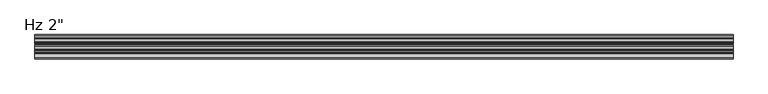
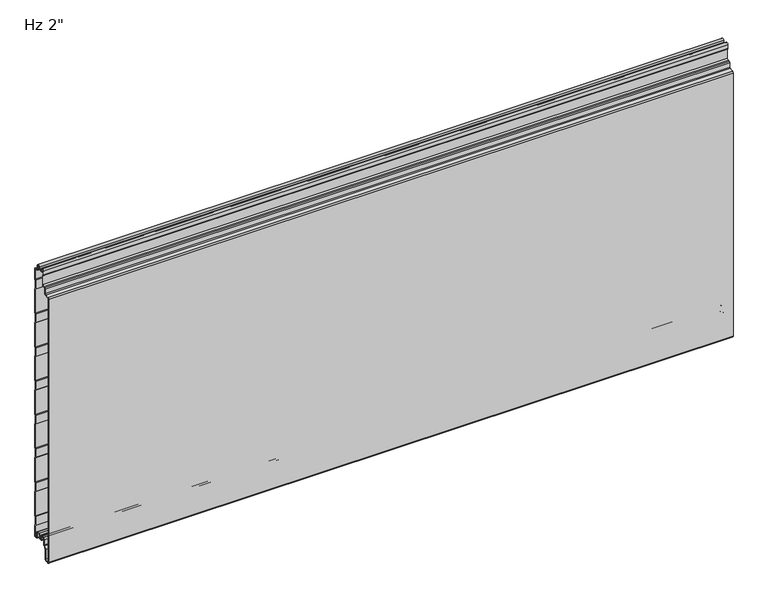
"""IFC4 building model written with IfcOpenShell, lengths in millimetres: plate geometry."""

from ifc_helpers import new_model, si_unit, point, frame, frame_2d, origin, place, context, project, spatial, polyline, circle_curve, trimmed, segment, composite_curve, outline, extrude, source, transform, mapped, element, save
from ifc_brep_helpers import plane_surface, cylinder_surface, revolved_surface, advanced_brep


def plate_0195604f(model_context):
    return source(origin(), model_context, "Body", "SolidModel", [
        advanced_brep(
        [(-730.0, -17.0015159, 2.0313088), (-730.0, -18.0015191, 1.0313116), (-730.0, -19.0015104, 2.0313088), (-730.0, -19.0015105, 6.0315125), (-730.0, -18.0015159, 6.0315125), (-730.0, -18.0015159, 8.7237223), (-730.0, -14.7015202, 12.023718), (-730.0, -10.301529, 12.023718), (-730.0, -7.0015335, 8.7237225), (-730.0, -7.0015335, -1.6962564), (-730.0, -5.2315393, -3.4662506), (-730.0, -0.9999916, -3.4662506), (-730.0, -0.9999916, 21.034026), (-730.0, -2.2002307, 22.4196686), (-730.0, -2.2002307, 41.7948349), (-730.0, -1.0, 43.1804679), (-730.0, -1.0, 97.2338833), (-730.0, -2.2002307, 98.6195162), (-730.0, -2.2002307, 117.9946825), (-730.0, -1.0, 119.3803155), (-730.0, -1.0, 173.4337309), (-730.0, -2.2002307, 174.8193638), (-730.0, -2.2002307, 194.1945301), (-730.0, -1.0, 195.5801631), (-730.0, -1.0, 249.6335785), (-730.0, -2.2002307, 251.0192114), (-730.0, -2.2002307, 270.3943777), (-730.0, -1.0, 271.7800107), (-730.0, -1.0, 325.8334261), (-730.0, -2.2002307, 327.219059), (-730.0, -2.2002307, 346.5942253), (-730.0, -1.0, 347.9798583), (-730.0, -1.0, 402.0332737), (-730.0, -2.2002307, 403.4189066), (-730.0, -2.2002307, 422.7940729), (-730.0, -1.0, 424.1797059), (-730.0, -1.0, 478.2331213), (-730.0, -2.2002307, 479.6187542), (-730.0, -2.2002307, 498.9939205), (-730.0, -1.0, 500.3795535), (-730.0, -1.0, 554.4329689), (-730.0, -2.2002307, 555.8186018), (-730.0, -2.2002307, 575.1937681), (-730.0, -1.0, 576.5794011), (-730.0, -1.0, 601.0787013), (-730.0, -6.0026007, 601.0787013), (-730.0, -9.9974365, 604.9016499), (-730.0, -10.4046442, 613.3931719), (-730.0, -14.7059822, 613.3921924), (-730.0, -14.9256429, 609.2513685), (-730.0, -16.6743462, 607.5686884), (-730.0, -19.0015288, 607.5686884), (-730.0, -19.0015288, 608.5686884), (-730.0, -16.6743462, 608.5686884), (-730.0, -15.9247038, 609.2955779), (-730.0, -15.7045782, 613.4451655), (-730.0, -9.405912, 613.4435732), (-730.0, -8.9985844, 604.9495495), (-730.0, -6.0004836, 602.0787013), (-730.0, -1.4015652, 602.0787013), (-730.0, -0.001568, 600.678797), (-730.0, 2.09e-05, 576.7275849), (-730.0, -0.3417885, 575.8119353), (-730.0, -1.2002307, 574.8208877), (-730.0, -1.2002307, 556.1914823), (-730.0, -0.3417885, 555.2004346), (-730.0, 0.0, 554.2838177), (-730.0, 0.0, 500.5287046), (-730.0, -0.3417885, 499.6120877), (-730.0, -1.2002307, 498.6210401), (-730.0, -1.2002307, 479.9916347), (-730.0, -0.3417885, 479.000587), (-730.0, 0.0, 478.0839701), (-730.0, 0.0, 424.328857), (-730.0, -0.3417885, 423.4122401), (-730.0, -1.2002307, 422.4211925), (-730.0, -1.2002307, 403.7917871), (-730.0, -0.3417885, 402.8007394), (-730.0, 0.0, 401.8841225), (-730.0, 0.0, 348.1290094), (-730.0, -0.3417885, 347.2123925), (-730.0, -1.2002307, 346.2213449), (-730.0, -1.2002307, 327.5919395), (-730.0, -0.3417885, 326.6008918), (-730.0, 0.0, 325.6842749), (-730.0, 0.0, 271.9291618), (-730.0, -0.3417885, 271.0125449), (-730.0, -1.2002307, 270.0214973), (-730.0, -1.2002307, 251.3920919), (-730.0, -0.3417885, 250.4010442), (-730.0, 0.0, 249.4844273), (-730.0, 0.0, 195.7293142), (-730.0, -0.3417885, 194.8126973), (-730.0, -1.2002307, 193.8216497), (-730.0, -1.2002307, 175.1922443), (-730.0, -0.3417885, 174.2011966), (-730.0, 0.0, 173.2845797), (-730.0, 0.0, 119.5294666), (-730.0, -0.3417885, 118.6128497), (-730.0, -1.2002307, 117.6218021), (-730.0, -1.2002307, 98.9923967), (-730.0, -0.3417885, 98.001349), (-730.0, 0.0, 97.0847321), (-730.0, 0.0, 43.329619), (-730.0, -0.3417885, 42.4130021), (-730.0, -1.2002307, 41.4219545), (-730.0, -1.2002307, 22.7925491), (-730.0, -0.3417885, 21.8015014), (-730.0, 0.0, 20.8847931), (-730.0, 8.4e-06, -3.0662545), (-730.0, -1.3999878, -4.4662506), (-730.0, -5.2315393, -4.4662506), (-730.0, -8.0015335, -1.6962564), (-730.0, -8.0015335, 8.7237225), (-730.0, -10.301529, 11.023718), (-730.0, -14.7015202, 11.023718), (-730.0, -17.0015159, 8.7237223), (730.0, -17.0015159, 2.0313088), (730.0, -17.0015159, 8.7237223), (730.0, -14.7015202, 11.023718), (730.0, -10.301529, 11.023718), (730.0, -8.0015335, 8.7237225), (730.0, -8.0015335, -1.6962564), (730.0, -5.2315393, -4.4662506), (730.0, -1.3999878, -4.4662506), (730.0, 8.4e-06, -3.0662545), (730.0, 8.4e-06, 20.8848845), (730.0, -0.3417885, 21.8015014), (730.0, -1.2002307, 22.7925491), (730.0, -1.2002307, 41.4219545), (730.0, -0.3417885, 42.4130021), (730.0, 0.0, 43.329619), (730.0, 0.0, 97.0847321), (730.0, -0.3417885, 98.001349), (730.0, -1.2002307, 98.9923967), (730.0, -1.2002307, 117.6218021), (730.0, -0.3417885, 118.6128497), (730.0, 0.0, 119.5294666), (730.0, 0.0, 173.2845797), (730.0, -0.3417885, 174.2011966), (730.0, -1.2002307, 175.1922443), (730.0, -1.2002307, 193.8216497), (730.0, -0.3417885, 194.8126973), (730.0, 0.0, 195.7293142), (730.0, 0.0, 249.4844273), (730.0, -0.3417885, 250.4010442), (730.0, -1.2002307, 251.3920919), (730.0, -1.2002307, 270.0214973), (730.0, -0.3417885, 271.0125449), (730.0, 0.0, 271.9291618), (730.0, 0.0, 325.6842749), (730.0, -0.3417885, 326.6008918), (730.0, -1.2002307, 327.5919395), (730.0, -1.2002307, 346.2213449), (730.0, -0.3417885, 347.2123925), (730.0, 0.0, 348.1290094), (730.0, 0.0, 401.8841225), (730.0, -0.3417885, 402.8007394), (730.0, -1.2002307, 403.7917871), (730.0, -1.2002307, 422.4211925), (730.0, -0.3417885, 423.4122401), (730.0, 0.0, 424.328857), (730.0, 0.0, 478.0839701), (730.0, -0.3417885, 479.000587), (730.0, -1.2002307, 479.9916347), (730.0, -1.2002307, 498.6210401), (730.0, -0.3417885, 499.6120877), (730.0, 0.0, 500.5287046), (730.0, 0.0, 554.2838177), (730.0, -0.3417885, 555.2004346), (730.0, -1.2002307, 556.1914823), (730.0, -1.2002307, 574.8208877), (730.0, -0.3417885, 575.8119353), (730.0, 0.0, 576.7285522), (730.0, 2.09e-05, 600.678797), (730.0, -1.4015652, 602.0787013), (730.0, -6.0004836, 602.0787013), (730.0, -8.9985844, 604.9495495), (730.0, -9.405912, 613.4435732), (730.0, -15.7045782, 613.4451655), (730.0, -15.9247038, 609.2955779), (730.0, -16.6743462, 608.5686884), (730.0, -19.0015288, 608.5686884), (730.0, -19.0015288, 607.5686884), (730.0, -16.6743462, 607.5686884), (730.0, -14.9256429, 609.2513685), (730.0, -14.7059822, 613.3921924), (730.0, -10.4046442, 613.3931719), (730.0, -9.9974365, 604.9016499), (730.0, -6.0026007, 601.0787013), (730.0, -1.0, 601.0787013), (730.0, -1.0, 576.5794011), (730.0, -2.2002307, 575.1937681), (730.0, -2.2002307, 555.8186018), (730.0, -1.0, 554.4329689), (730.0, -1.0, 500.3795535), (730.0, -2.2002307, 498.9939205), (730.0, -2.2002307, 479.6187542), (730.0, -1.0, 478.2331213), (730.0, -1.0, 424.1797059), (730.0, -2.2002307, 422.7940729), (730.0, -2.2002307, 403.4189066), (730.0, -1.0, 402.0332737), (730.0, -1.0, 347.9798583), (730.0, -2.2002307, 346.5942253), (730.0, -2.2002307, 327.219059), (730.0, -1.0, 325.8334261), (730.0, -1.0, 271.7800107), (730.0, -2.2002307, 270.3943777), (730.0, -2.2002307, 251.0192114), (730.0, -1.0, 249.6335785), (730.0, -1.0, 195.5801631), (730.0, -2.2002307, 194.1945301), (730.0, -2.2002307, 174.8193638), (730.0, -1.0, 173.4337309), (730.0, -1.0, 119.3803155), (730.0, -2.2002307, 117.9946825), (730.0, -2.2002307, 98.6195162), (730.0, -1.0, 97.2338833), (730.0, -1.0, 43.1804679), (730.0, -2.2002307, 41.7948349), (730.0, -2.2002307, 22.4196686), (730.0, -0.9999916, 21.034026), (730.0, -0.9999916, -3.4662506), (730.0, -5.2315393, -3.4662506), (730.0, -7.0015335, -1.6962564), (730.0, -7.0015335, 8.7237225), (730.0, -10.301529, 12.023718), (730.0, -14.7015202, 12.023718), (730.0, -18.0015159, 8.7237223), (730.0, -18.0015159, 6.0315125), (730.0, -19.0015105, 6.0315125), (730.0, -19.0015105, 2.0313088), (730.0, -18.0015191, 1.0313116)],
        [
            (0, 1, circle_curve(frame((-730.0, -18.0015132, 2.0313088), z_axis=(-1.0, 0.0, 0.0), x_axis=(0.0, 0.0, 1.0)), 0.9999973)),
            (1, 2, circle_curve(frame((-730.0, -18.0015132, 2.0313088), z_axis=(-1.0, 0.0, 0.0), x_axis=(0.0, 0.0, 1.0)), 0.9999972)),
            (2, 3),
            (3, 4),
            (4, 5),
            (5, 6, circle_curve(frame((-730.0, -14.7015202, 8.7237223), z_axis=(-1.0, 0.0, 0.0), x_axis=(0.0, 0.0, 1.0)), 3.2999957)),
            (6, 7),
            (7, 8, circle_curve(frame((-730.0, -10.301529, 8.7237225), z_axis=(-1.0, 0.0, 0.0), x_axis=(0.0, 0.0, 1.0)), 3.2999955)),
            (8, 9),
            (9, 10, circle_curve(frame((-730.0, -5.2315393, -1.6962564), z_axis=(1.0, 0.0, 0.0), x_axis=(0.0, 0.0, 1.0)), 1.7699942)),
            (10, 11),
            (11, 12),
            (12, 13),
            (13, 14),
            (14, 15),
            (15, 16),
            (16, 17),
            (17, 18),
            (18, 19),
            (19, 20),
            (20, 21),
            (21, 22),
            (22, 23),
            (23, 24),
            (24, 25),
            (25, 26),
            (26, 27),
            (27, 28),
            (28, 29),
            (29, 30),
            (30, 31),
            (31, 32),
            (32, 33),
            (33, 34),
            (34, 35),
            (35, 36),
            (36, 37),
            (37, 38),
            (38, 39),
            (39, 40),
            (40, 41),
            (41, 42),
            (42, 43),
            (43, 44),
            (44, 45),
            (45, 46, circle_curve(frame((-730.0, -5.9867338, 605.0939817), z_axis=(-1.0, 0.0, 0.0), x_axis=(0.0, 0.0, 1.0)), 4.0153117)),
            (46, 47),
            (47, 48, circle_curve(frame((-730.0, -12.5552871, 613.2781032), z_axis=(1.0, 0.0, 0.0), x_axis=(0.0, 0.0, 1.0)), 2.153719)),
            (48, 49),
            (49, 50, circle_curve(frame((-730.0, -16.6743462, 609.3186869), z_axis=(-1.0, 0.0, 0.0), x_axis=(0.0, 0.0, 1.0)), 1.7499985)),
            (50, 51),
            (51, 52),
            (52, 53),
            (53, 54, circle_curve(frame((-730.0, -16.6743462, 609.3186869), z_axis=(1.0, 0.0, 0.0), x_axis=(0.0, 0.0, 1.0)), 0.7499985)),
            (54, 55),
            (55, 56, circle_curve(frame((-730.0, -12.5552871, 613.2781032), z_axis=(-1.0, 0.0, 0.0), x_axis=(0.0, 0.0, 1.0)), 3.153719)),
            (56, 57),
            (57, 58, circle_curve(frame((-730.0, -5.9867338, 605.0939817), z_axis=(1.0, 0.0, 0.0), x_axis=(0.0, 0.0, 1.0)), 3.0153117)),
            (58, 59),
            (59, 60, circle_curve(frame((-730.0, -1.4015652, 600.6787041), z_axis=(-1.0, 0.0, 0.0), x_axis=(0.0, 0.0, 1.0)), 1.3999972)),
            (60, 61),
            (61, 62, circle_curve(frame((-730.0, -1.3999972, 576.7285522), z_axis=(-1.0, 0.0, 0.0), x_axis=(0.0, 0.0, 1.0)), 1.3999972)),
            (62, 63),
            (63, 64),
            (64, 65),
            (65, 66, circle_curve(frame((-730.0, -1.3999972, 554.2838177), z_axis=(-1.0, 0.0, 0.0), x_axis=(0.0, 0.0, 1.0)), 1.3999972)),
            (66, 67),
            (67, 68, circle_curve(frame((-730.0, -1.3999972, 500.5287046), z_axis=(-1.0, 0.0, 0.0), x_axis=(0.0, 0.0, 1.0)), 1.3999972)),
            (68, 69),
            (69, 70),
            (70, 71),
            (71, 72, circle_curve(frame((-730.0, -1.3999972, 478.0839701), z_axis=(-1.0, 0.0, 0.0), x_axis=(0.0, 0.0, 1.0)), 1.3999972)),
            (72, 73),
            (73, 74, circle_curve(frame((-730.0, -1.3999972, 424.328857), z_axis=(-1.0, 0.0, 0.0), x_axis=(0.0, 0.0, 1.0)), 1.3999972)),
            (74, 75),
            (75, 76),
            (76, 77),
            (77, 78, circle_curve(frame((-730.0, -1.3999972, 401.8841225), z_axis=(-1.0, 0.0, 0.0), x_axis=(0.0, 0.0, 1.0)), 1.3999972)),
            (78, 79),
            (79, 80, circle_curve(frame((-730.0, -1.3999972, 348.1290094), z_axis=(-1.0, 0.0, 0.0), x_axis=(0.0, 0.0, 1.0)), 1.3999972)),
            (80, 81),
            (81, 82),
            (82, 83),
            (83, 84, circle_curve(frame((-730.0, -1.3999972, 325.6842749), z_axis=(-1.0, 0.0, 0.0), x_axis=(0.0, 0.0, 1.0)), 1.3999972)),
            (84, 85),
            (85, 86, circle_curve(frame((-730.0, -1.3999972, 271.9291618), z_axis=(-1.0, 0.0, 0.0), x_axis=(0.0, 0.0, 1.0)), 1.3999972)),
            (86, 87),
            (87, 88),
            (88, 89),
            (89, 90, circle_curve(frame((-730.0, -1.3999972, 249.4844273), z_axis=(-1.0, 0.0, 0.0), x_axis=(0.0, 0.0, 1.0)), 1.3999972)),
            (90, 91),
            (91, 92, circle_curve(frame((-730.0, -1.3999972, 195.7293142), z_axis=(-1.0, 0.0, 0.0), x_axis=(0.0, 0.0, 1.0)), 1.3999972)),
            (92, 93),
            (93, 94),
            (94, 95),
            (95, 96, circle_curve(frame((-730.0, -1.3999972, 173.2845797), z_axis=(-1.0, 0.0, 0.0), x_axis=(0.0, 0.0, 1.0)), 1.3999972)),
            (96, 97),
            (97, 98, circle_curve(frame((-730.0, -1.3999972, 119.5294666), z_axis=(-1.0, 0.0, 0.0), x_axis=(0.0, 0.0, 1.0)), 1.3999972)),
            (98, 99),
            (99, 100),
            (100, 101),
            (101, 102, circle_curve(frame((-730.0, -1.3999972, 97.0847321), z_axis=(-1.0, 0.0, 0.0), x_axis=(0.0, 0.0, 1.0)), 1.3999972)),
            (102, 103),
            (103, 104, circle_curve(frame((-730.0, -1.3999972, 43.329619), z_axis=(-1.0, 0.0, 0.0), x_axis=(0.0, 0.0, 1.0)), 1.3999972)),
            (104, 105),
            (105, 106),
            (106, 107),
            (107, 108, circle_curve(frame((-730.0, -1.3999972, 20.8848845), z_axis=(-1.0, 0.0, 0.0), x_axis=(0.0, 0.0, 1.0)), 1.3999972)),
            (108, 109),
            (109, 110, circle_curve(frame((-730.0, -1.3999878, -3.0662545), z_axis=(-1.0, 0.0, 0.0), x_axis=(0.0, 0.0, 1.0)), 1.3999962)),
            (110, 111),
            (111, 112, circle_curve(frame((-730.0, -5.2315393, -1.6962564), z_axis=(-1.0, 0.0, 0.0), x_axis=(0.0, 0.0, 1.0)), 2.7699942)),
            (112, 113),
            (113, 114, circle_curve(frame((-730.0, -10.301529, 8.7237225), z_axis=(1.0, 0.0, 0.0), x_axis=(0.0, 0.0, 1.0)), 2.2999955)),
            (114, 115),
            (115, 116, circle_curve(frame((-730.0, -14.7015202, 8.7237223), z_axis=(1.0, 0.0, 0.0), x_axis=(0.0, 0.0, 1.0)), 2.2999957)),
            (116, 0),
            (117, 118),
            (118, 119, circle_curve(frame((730.0, -14.7015202, 8.7237223), z_axis=(-1.0, 0.0, 0.0), x_axis=(0.0, 0.0, 1.0)), 2.2999957)),
            (119, 120),
            (120, 121, circle_curve(frame((730.0, -10.301529, 8.7237225), z_axis=(-1.0, 0.0, 0.0), x_axis=(0.0, 0.0, 1.0)), 2.2999955)),
            (121, 122),
            (122, 123, circle_curve(frame((730.0, -5.2315393, -1.6962564), z_axis=(1.0, 0.0, 0.0), x_axis=(0.0, 0.0, 1.0)), 2.7699942)),
            (123, 124),
            (124, 125, circle_curve(frame((730.0, -1.3999878, -3.0662545), z_axis=(1.0, 0.0, 0.0), x_axis=(0.0, 0.0, 1.0)), 1.3999962)),
            (125, 126),
            (126, 127, circle_curve(frame((730.0, -1.3999972, 20.8848845), z_axis=(1.0, 0.0, 0.0), x_axis=(0.0, 0.0, 1.0)), 1.3999972)),
            (127, 128),
            (128, 129),
            (129, 130),
            (130, 131, circle_curve(frame((730.0, -1.3999972, 43.329619), z_axis=(1.0, 0.0, 0.0), x_axis=(0.0, 0.0, 1.0)), 1.3999972)),
            (131, 132),
            (132, 133, circle_curve(frame((730.0, -1.3999972, 97.0847321), z_axis=(1.0, 0.0, 0.0), x_axis=(0.0, 0.0, 1.0)), 1.3999972)),
            (133, 134),
            (134, 135),
            (135, 136),
            (136, 137, circle_curve(frame((730.0, -1.3999972, 119.5294666), z_axis=(1.0, 0.0, 0.0), x_axis=(0.0, 0.0, 1.0)), 1.3999972)),
            (137, 138),
            (138, 139, circle_curve(frame((730.0, -1.3999972, 173.2845797), z_axis=(1.0, 0.0, 0.0), x_axis=(0.0, 0.0, 1.0)), 1.3999972)),
            (139, 140),
            (140, 141),
            (141, 142),
            (142, 143, circle_curve(frame((730.0, -1.3999972, 195.7293142), z_axis=(1.0, 0.0, 0.0), x_axis=(0.0, 0.0, 1.0)), 1.3999972)),
            (143, 144),
            (144, 145, circle_curve(frame((730.0, -1.3999972, 249.4844273), z_axis=(1.0, 0.0, 0.0), x_axis=(0.0, 0.0, 1.0)), 1.3999972)),
            (145, 146),
            (146, 147),
            (147, 148),
            (148, 149, circle_curve(frame((730.0, -1.3999972, 271.9291618), z_axis=(1.0, 0.0, 0.0), x_axis=(0.0, 0.0, 1.0)), 1.3999972)),
            (149, 150),
            (150, 151, circle_curve(frame((730.0, -1.3999972, 325.6842749), z_axis=(1.0, 0.0, 0.0), x_axis=(0.0, 0.0, 1.0)), 1.3999972)),
            (151, 152),
            (152, 153),
            (153, 154),
            (154, 155, circle_curve(frame((730.0, -1.3999972, 348.1290094), z_axis=(1.0, 0.0, 0.0), x_axis=(0.0, 0.0, 1.0)), 1.3999972)),
            (155, 156),
            (156, 157, circle_curve(frame((730.0, -1.3999972, 401.8841225), z_axis=(1.0, 0.0, 0.0), x_axis=(0.0, 0.0, 1.0)), 1.3999972)),
            (157, 158),
            (158, 159),
            (159, 160),
            (160, 161, circle_curve(frame((730.0, -1.3999972, 424.328857), z_axis=(1.0, 0.0, 0.0), x_axis=(0.0, 0.0, 1.0)), 1.3999972)),
            (161, 162),
            (162, 163, circle_curve(frame((730.0, -1.3999972, 478.0839701), z_axis=(1.0, 0.0, 0.0), x_axis=(0.0, 0.0, 1.0)), 1.3999972)),
            (163, 164),
            (164, 165),
            (165, 166),
            (166, 167, circle_curve(frame((730.0, -1.3999972, 500.5287046), z_axis=(1.0, 0.0, 0.0), x_axis=(0.0, 0.0, 1.0)), 1.3999972)),
            (167, 168),
            (168, 169, circle_curve(frame((730.0, -1.3999972, 554.2838177), z_axis=(1.0, 0.0, 0.0), x_axis=(0.0, 0.0, 1.0)), 1.3999972)),
            (169, 170),
            (170, 171),
            (171, 172),
            (172, 173, circle_curve(frame((730.0, -1.3999972, 576.7285522), z_axis=(1.0, 0.0, 0.0), x_axis=(0.0, 0.0, 1.0)), 1.3999972)),
            (173, 174),
            (174, 175, circle_curve(frame((730.0, -1.4015652, 600.6787041), z_axis=(1.0, 0.0, 0.0), x_axis=(0.0, 0.0, 1.0)), 1.3999972)),
            (175, 176),
            (176, 177, circle_curve(frame((730.0, -5.9867338, 605.0939817), z_axis=(-1.0, 0.0, 0.0), x_axis=(0.0, 0.0, 1.0)), 3.0153117)),
            (177, 178),
            (178, 179, circle_curve(frame((730.0, -12.5552871, 613.2781032), z_axis=(1.0, 0.0, 0.0), x_axis=(0.0, 0.0, 1.0)), 3.153719)),
            (179, 180),
            (180, 181, circle_curve(frame((730.0, -16.6743462, 609.3186869), z_axis=(-1.0, 0.0, 0.0), x_axis=(0.0, 0.0, 1.0)), 0.7499985)),
            (181, 182),
            (182, 183),
            (183, 184),
            (184, 185, circle_curve(frame((730.0, -16.6743462, 609.3186869), z_axis=(1.0, 0.0, 0.0), x_axis=(0.0, 0.0, 1.0)), 1.7499985)),
            (185, 186),
            (186, 187, circle_curve(frame((730.0, -12.5552871, 613.2781032), z_axis=(-1.0, 0.0, 0.0), x_axis=(0.0, 0.0, 1.0)), 2.153719)),
            (187, 188),
            (188, 189, circle_curve(frame((730.0, -5.9867338, 605.0939817), z_axis=(1.0, 0.0, 0.0), x_axis=(0.0, 0.0, 1.0)), 4.0153117)),
            (189, 190),
            (190, 191),
            (191, 192),
            (192, 193),
            (193, 194),
            (194, 195),
            (195, 196),
            (196, 197),
            (197, 198),
            (198, 199),
            (199, 200),
            (200, 201),
            (201, 202),
            (202, 203),
            (203, 204),
            (204, 205),
            (205, 206),
            (206, 207),
            (207, 208),
            (208, 209),
            (209, 210),
            (210, 211),
            (211, 212),
            (212, 213),
            (213, 214),
            (214, 215),
            (215, 216),
            (216, 217),
            (217, 218),
            (218, 219),
            (219, 220),
            (220, 221),
            (221, 222),
            (222, 223),
            (223, 224),
            (224, 225, circle_curve(frame((730.0, -5.2315393, -1.6962564), z_axis=(-1.0, 0.0, 0.0), x_axis=(0.0, 0.0, 1.0)), 1.7699942)),
            (225, 226),
            (226, 227, circle_curve(frame((730.0, -10.301529, 8.7237225), z_axis=(1.0, 0.0, 0.0), x_axis=(0.0, 0.0, 1.0)), 3.2999955)),
            (227, 228),
            (228, 229, circle_curve(frame((730.0, -14.7015202, 8.7237223), z_axis=(1.0, 0.0, 0.0), x_axis=(0.0, 0.0, 1.0)), 3.2999957)),
            (229, 230),
            (230, 231),
            (231, 232),
            (232, 233, circle_curve(frame((730.0, -18.0015132, 2.0313088), z_axis=(1.0, 0.0, 0.0), x_axis=(0.0, 0.0, 1.0)), 0.9999972)),
            (233, 117, circle_curve(frame((730.0, -18.0015132, 2.0313088), z_axis=(1.0, 0.0, 0.0), x_axis=(0.0, 0.0, 1.0)), 0.9999973)),
            (116, 118),
            (117, 0),
            (115, 119),
            (114, 120),
            (113, 121),
            (112, 122),
            (111, 123),
            (110, 124),
            (109, 125),
            (108, 126),
            (90, 144),
            (143, 91),
            (107, 127),
            (106, 128),
            (105, 129),
            (103, 131),
            (130, 104),
            (101, 133),
            (132, 102),
            (86, 148),
            (147, 87),
            (142, 92),
            (141, 93),
            (96, 138),
            (137, 97),
            (89, 145),
            (88, 146),
            (85, 149),
            (136, 98),
            (99, 135),
            (134, 100),
            (95, 139),
            (94, 140),
            (2, 232),
            (231, 3),
            (1, 233),
            (84, 150),
            (83, 151),
            (82, 152),
            (81, 153),
            (80, 154),
            (79, 155),
            (78, 156),
            (77, 157),
            (76, 158),
            (75, 159),
            (74, 160),
            (73, 161),
            (72, 162),
            (71, 163),
            (70, 164),
            (69, 165),
            (68, 166),
            (67, 167),
            (66, 168),
            (65, 169),
            (64, 170),
            (63, 171),
            (62, 172),
            (61, 173),
            (60, 174),
            (59, 175),
            (58, 176),
            (57, 177),
            (56, 178),
            (55, 179),
            (54, 180),
            (53, 181),
            (52, 182),
            (51, 183),
            (50, 184),
            (49, 185),
            (48, 186),
            (47, 187),
            (46, 188),
            (45, 189),
            (44, 190),
            (43, 191),
            (42, 192),
            (41, 193),
            (40, 194),
            (39, 195),
            (38, 196),
            (37, 197),
            (36, 198),
            (35, 199),
            (34, 200),
            (33, 201),
            (32, 202),
            (31, 203),
            (30, 204),
            (29, 205),
            (28, 206),
            (27, 207),
            (26, 208),
            (25, 209),
            (24, 210),
            (23, 211),
            (22, 212),
            (21, 213),
            (20, 214),
            (19, 215),
            (18, 216),
            (17, 217),
            (16, 218),
            (15, 219),
            (14, 220),
            (13, 221),
            (12, 222),
            (11, 223),
            (10, 224),
            (9, 225),
            (8, 226),
            (7, 227),
            (6, 228),
            (5, 229),
            (4, 230),
        ],
        [
            plane_surface(frame((-730.0, 0.0, 304.8), z_axis=(-1.0, 0.0, 0.0), x_axis=(0.0, 1.0, 0.0))),
            plane_surface(frame((730.0, 0.0, 304.8), z_axis=(1.0, 0.0, 0.0), x_axis=(0.0, 1.0, 0.0))),
            plane_surface(frame((-730.0, -17.0015159, 2.0313088), z_axis=(0.0, 1.0, 0.0), x_axis=(1.0, 0.0, 0.0))),
            revolved_surface(polyline([(730.0, -14.7015202, 11.023718), (-730.0, -14.7015202, 11.023718)]), (-730.0, -14.7015202, 8.7237223), (1.0, 0.0, 0.0)),
            plane_surface(frame((-730.0, -14.7015202, 11.023718), z_axis=(0.0, 0.0, -1.0), x_axis=(1.0, 0.0, 0.0))),
            revolved_surface(polyline([(730.0, -10.301529, 11.023717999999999), (-730.0, -10.301529, 11.023717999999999)]), (-730.0, -10.301529, 8.7237225), (1.0, 0.0, 0.0)),
            plane_surface(frame((-730.0, -8.0015335, 8.7237225), z_axis=(0.0, -1.0, 0.0), x_axis=(1.0, 0.0, 0.0))),
            cylinder_surface(frame((-730.0, -5.2315393, -1.6962564), z_axis=(-1.0, 0.0, 0.0), x_axis=(0.0, 0.0, 1.0)), 2.7699942),
            plane_surface(frame((-730.0, -5.2315393, -4.4662506), z_axis=(0.0, 0.0, -1.0), x_axis=(1.0, 0.0, 0.0))),
            cylinder_surface(frame((-730.0, -1.3999878, -3.0662545), z_axis=(-1.0, 0.0, 0.0), x_axis=(0.0, 0.0, 1.0)), 1.3999962),
            plane_surface(frame((-730.0, 8.4e-06, -3.0662545), z_axis=(0.0, 1.0, 0.0), x_axis=(1.0, 0.0, 0.0))),
            plane_surface(frame((-730.0, 0.0, 195.7293142), z_axis=(0.0, 1.0, 0.0), x_axis=(1.0, 0.0, 0.0))),
            cylinder_surface(frame((-730.0, -1.3999972, 20.8848845), z_axis=(-1.0, 0.0, 0.0), x_axis=(0.0, 0.0, 1.0)), 1.3999972),
            plane_surface(frame((-730.0, -0.3417885, 21.8015014), z_axis=(0.0, 0.755864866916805, 0.6547276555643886), x_axis=(1.0, 0.0, 0.0))),
            plane_surface(frame((-730.0, -1.2002307, 32.1072518), z_axis=(0.0, 1.0, 0.0), x_axis=(1.0, 0.0, 0.0))),
            cylinder_surface(frame((-730.0, -1.3999972, 43.329619), z_axis=(-1.0, 0.0, 0.0), x_axis=(0.0, 0.0, 1.0)), 1.3999972),
            plane_surface(frame((-730.0, -1.2002307, 41.4219545), z_axis=(0.0, 0.755864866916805, -0.6547276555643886), x_axis=(1.0, 0.0, 0.0))),
            cylinder_surface(frame((-730.0, -1.3999972, 97.0847321), z_axis=(-1.0, 0.0, 0.0), x_axis=(0.0, 0.0, 1.0)), 1.3999972),
            plane_surface(frame((-730.0, -1.2002307, 270.0214973), z_axis=(0.0, 0.755864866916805, -0.6547276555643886), x_axis=(1.0, 0.0, 0.0))),
            cylinder_surface(frame((-730.0, -1.3999972, 195.7293142), z_axis=(-1.0, 0.0, 0.0), x_axis=(0.0, 0.0, 1.0)), 1.3999972),
            plane_surface(frame((-730.0, -1.2002307, 193.8216497), z_axis=(0.0, 0.755864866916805, -0.6547276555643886), x_axis=(1.0, 0.0, 0.0))),
            plane_surface(frame((-730.0, 0.0, 119.5294666), z_axis=(0.0, 1.0, 0.0), x_axis=(1.0, 0.0, 0.0))),
            cylinder_surface(frame((-730.0, -1.3999972, 249.4844273), z_axis=(-1.0, 0.0, 0.0), x_axis=(0.0, 0.0, 1.0)), 1.3999972),
            plane_surface(frame((-730.0, -0.3417885, 250.4010442), z_axis=(0.0, 0.755864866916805, 0.6547276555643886), x_axis=(1.0, 0.0, 0.0))),
            plane_surface(frame((-730.0, -1.2002307, 260.7067946), z_axis=(0.0, 1.0, 0.0), x_axis=(1.0, 0.0, 0.0))),
            cylinder_surface(frame((-730.0, -1.3999972, 271.9291618), z_axis=(-1.0, 0.0, 0.0), x_axis=(0.0, 0.0, 1.0)), 1.3999972),
            cylinder_surface(frame((-730.0, -1.3999972, 119.5294666), z_axis=(-1.0, 0.0, 0.0), x_axis=(0.0, 0.0, 1.0)), 1.3999972),
            plane_surface(frame((-730.0, -1.2002307, 108.3070994), z_axis=(0.0, 1.0, 0.0), x_axis=(1.0, 0.0, 0.0))),
            plane_surface(frame((-730.0, -0.3417885, 98.001349), z_axis=(0.0, 0.755864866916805, 0.6547276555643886), x_axis=(1.0, 0.0, 0.0))),
            plane_surface(frame((-730.0, -1.2002307, 117.6218021), z_axis=(0.0, 0.755864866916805, -0.6547276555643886), x_axis=(1.0, 0.0, 0.0))),
            plane_surface(frame((-730.0, 0.0, 43.329619), z_axis=(0.0, 1.0, 0.0), x_axis=(1.0, 0.0, 0.0))),
            cylinder_surface(frame((-730.0, -1.3999972, 173.2845797), z_axis=(-1.0, 0.0, 0.0), x_axis=(0.0, 0.0, 1.0)), 1.3999972),
            plane_surface(frame((-730.0, -0.3417885, 174.2011966), z_axis=(0.0, 0.755864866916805, 0.6547276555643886), x_axis=(1.0, 0.0, 0.0))),
            plane_surface(frame((-730.0, -1.2002307, 184.506947), z_axis=(0.0, 1.0, 0.0), x_axis=(1.0, 0.0, 0.0))),
            plane_surface(frame((-730.0, -19.0015105, 6.0315125), z_axis=(0.0, -1.0, 0.0), x_axis=(1.0, 0.0, 0.0))),
            cylinder_surface(frame((-730.0, -18.0015132, 2.0313088), z_axis=(-1.0, 0.0, 0.0), x_axis=(0.0, 0.0, 1.0)), 0.9999972),
            cylinder_surface(frame((-730.0, -18.0015132, 2.0313088), z_axis=(-1.0, 0.0, 0.0), x_axis=(0.0, 0.0, 1.0)), 0.9999973),
            plane_surface(frame((-730.0, 0.0, 271.9291618), z_axis=(0.0, 1.0, 0.0), x_axis=(1.0, 0.0, 0.0))),
            cylinder_surface(frame((-730.0, -1.3999972, 325.6842749), z_axis=(-1.0, 0.0, 0.0), x_axis=(0.0, 0.0, 1.0)), 1.3999972),
            plane_surface(frame((-730.0, -0.3417885, 326.6008918), z_axis=(0.0, 0.755864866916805, 0.6547276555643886), x_axis=(1.0, 0.0, 0.0))),
            plane_surface(frame((-730.0, -1.2002307, 336.9066422), z_axis=(0.0, 1.0, 0.0), x_axis=(1.0, 0.0, 0.0))),
            plane_surface(frame((-730.0, -1.2002307, 346.2213449), z_axis=(0.0, 0.755864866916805, -0.6547276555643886), x_axis=(1.0, 0.0, 0.0))),
            cylinder_surface(frame((-730.0, -1.3999972, 348.1290094), z_axis=(-1.0, 0.0, 0.0), x_axis=(0.0, 0.0, 1.0)), 1.3999972),
            plane_surface(frame((-730.0, 0.0, 348.1290094), z_axis=(0.0, 1.0, 0.0), x_axis=(1.0, 0.0, 0.0))),
            cylinder_surface(frame((-730.0, -1.3999972, 401.8841225), z_axis=(-1.0, 0.0, 0.0), x_axis=(0.0, 0.0, 1.0)), 1.3999972),
            plane_surface(frame((-730.0, -0.3417885, 402.8007394), z_axis=(0.0, 0.755864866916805, 0.6547276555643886), x_axis=(1.0, 0.0, 0.0))),
            plane_surface(frame((-730.0, -1.2002307, 413.1064898), z_axis=(0.0, 1.0, 0.0), x_axis=(1.0, 0.0, 0.0))),
            plane_surface(frame((-730.0, -1.2002307, 422.4211925), z_axis=(0.0, 0.755864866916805, -0.6547276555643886), x_axis=(1.0, 0.0, 0.0))),
            cylinder_surface(frame((-730.0, -1.3999972, 424.328857), z_axis=(-1.0, 0.0, 0.0), x_axis=(0.0, 0.0, 1.0)), 1.3999972),
            plane_surface(frame((-730.0, 0.0, 424.328857), z_axis=(0.0, 1.0, 0.0), x_axis=(1.0, 0.0, 0.0))),
            cylinder_surface(frame((-730.0, -1.3999972, 478.0839701), z_axis=(-1.0, 0.0, 0.0), x_axis=(0.0, 0.0, 1.0)), 1.3999972),
            plane_surface(frame((-730.0, -0.3417885, 479.000587), z_axis=(0.0, 0.755864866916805, 0.6547276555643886), x_axis=(1.0, 0.0, 0.0))),
            plane_surface(frame((-730.0, -1.2002307, 489.3063374), z_axis=(0.0, 1.0, 0.0), x_axis=(1.0, 0.0, 0.0))),
            plane_surface(frame((-730.0, -1.2002307, 498.6210401), z_axis=(0.0, 0.755864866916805, -0.6547276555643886), x_axis=(1.0, 0.0, 0.0))),
            cylinder_surface(frame((-730.0, -1.3999972, 500.5287046), z_axis=(-1.0, 0.0, 0.0), x_axis=(0.0, 0.0, 1.0)), 1.3999972),
            plane_surface(frame((-730.0, 0.0, 500.5287046), z_axis=(0.0, 1.0, 0.0), x_axis=(1.0, 0.0, 0.0))),
            cylinder_surface(frame((-730.0, -1.3999972, 554.2838177), z_axis=(-1.0, 0.0, 0.0), x_axis=(0.0, 0.0, 1.0)), 1.3999972),
            plane_surface(frame((-730.0, -0.3417885, 555.2004346), z_axis=(0.0, 0.755864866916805, 0.6547276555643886), x_axis=(1.0, 0.0, 0.0))),
            plane_surface(frame((-730.0, -1.2002307, 565.506185), z_axis=(0.0, 1.0, 0.0), x_axis=(1.0, 0.0, 0.0))),
            plane_surface(frame((-730.0, -1.2002307, 574.8208877), z_axis=(0.0, 0.755864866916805, -0.6547276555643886), x_axis=(1.0, 0.0, 0.0))),
            cylinder_surface(frame((-730.0, -1.3999972, 576.7285522), z_axis=(-1.0, 0.0, 0.0), x_axis=(0.0, 0.0, 1.0)), 1.3999972),
            plane_surface(frame((-730.0, 2.09e-05, 576.7275849), z_axis=(0.0, 1.0, 0.0), x_axis=(1.0, 0.0, 0.0))),
            cylinder_surface(frame((-730.0, -1.4015652, 600.6787041), z_axis=(-1.0, 0.0, 0.0), x_axis=(0.0, 0.0, 1.0)), 1.3999972),
            plane_surface(frame((-730.0, -1.4015652, 602.0787013), z_axis=(0.0, 0.0, 1.0), x_axis=(1.0, 0.0, 0.0))),
            revolved_surface(polyline([(730.0, -5.9867338, 608.1092934), (-730.0, -5.9867338, 608.1092934)]), (-730.0, -5.9867338, 605.0939817), (1.0, 0.0, 0.0)),
            plane_surface(frame((-730.0, -8.9985844, 604.9495495), z_axis=(0.0, 0.9988521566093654, 0.047899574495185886), x_axis=(1.0, 0.0, 0.0))),
            cylinder_surface(frame((-730.0, -12.5552871, 613.2781032), z_axis=(-1.0, 0.0, 0.0), x_axis=(0.0, 0.0, 1.0)), 3.153719),
            plane_surface(frame((-730.0, -15.7045782, 613.4451655), z_axis=(0.0, -0.9985959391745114, 0.05297310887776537), x_axis=(1.0, 0.0, 0.0))),
            revolved_surface(polyline([(730.0, -16.6743462, 610.0686853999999), (-730.0, -16.6743462, 610.0686853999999)]), (-730.0, -16.6743462, 609.3186869), (1.0, 0.0, 0.0)),
            plane_surface(frame((-730.0, -17.5871409, 608.5686884), z_axis=(0.0, 0.0, 1.0), x_axis=(1.0, 0.0, 0.0))),
            plane_surface(frame((-730.0, -19.0015288, 608.5686884), z_axis=(0.0, -1.0, 0.0), x_axis=(1.0, 0.0, 0.0))),
            plane_surface(frame((-730.0, -17.5871409, 607.5686884), z_axis=(0.0, 0.0, -1.0), x_axis=(1.0, 0.0, 0.0))),
            cylinder_surface(frame((-730.0, -16.6743462, 609.3186869), z_axis=(-1.0, 0.0, 0.0), x_axis=(0.0, 0.0, 1.0)), 1.7499985),
            plane_surface(frame((-730.0, -14.9256429, 609.2513685), z_axis=(0.0, 0.998595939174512, -0.05297310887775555), x_axis=(1.0, 0.0, 0.0))),
            revolved_surface(polyline([(730.0, -12.5552871, 615.4318222), (-730.0, -12.5552871, 615.4318222)]), (-730.0, -12.5552871, 613.2781032), (1.0, 0.0, 0.0)),
            plane_surface(frame((-730.0, -10.4046442, 613.3931719), z_axis=(0.0, -0.9988521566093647, -0.04789957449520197), x_axis=(1.0, 0.0, 0.0))),
            cylinder_surface(frame((-730.0, -5.9867338, 605.0939817), z_axis=(-1.0, 0.0, 0.0), x_axis=(0.0, 0.0, 1.0)), 4.0153117),
            plane_surface(frame((-730.0, -6.0026007, 601.0787013), z_axis=(0.0, 0.0, -1.0), x_axis=(1.0, 0.0, 0.0))),
            plane_surface(frame((-730.0, -1.0, 601.0787013), z_axis=(0.0, -1.0, 0.0), x_axis=(1.0, 0.0, 0.0))),
            plane_surface(frame((-730.0, -1.0, 576.5794011), z_axis=(0.0, -0.755864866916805, 0.6547276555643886), x_axis=(1.0, 0.0, 0.0))),
            plane_surface(frame((-730.0, -2.2002307, 575.1937681), z_axis=(0.0, -1.0, 0.0), x_axis=(1.0, 0.0, 0.0))),
            plane_surface(frame((-730.0, -2.2002307, 555.8186018), z_axis=(0.0, -0.755864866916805, -0.6547276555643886), x_axis=(1.0, 0.0, 0.0))),
            plane_surface(frame((-730.0, -1.0, 554.4329689), z_axis=(0.0, -1.0, 0.0), x_axis=(1.0, 0.0, 0.0))),
            plane_surface(frame((-730.0, -1.0, 500.3795535), z_axis=(0.0, -0.755864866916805, 0.6547276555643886), x_axis=(1.0, 0.0, 0.0))),
            plane_surface(frame((-730.0, -2.2002307, 498.9939205), z_axis=(0.0, -1.0, 0.0), x_axis=(1.0, 0.0, 0.0))),
            plane_surface(frame((-730.0, -2.2002307, 479.6187542), z_axis=(0.0, -0.755864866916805, -0.6547276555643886), x_axis=(1.0, 0.0, 0.0))),
            plane_surface(frame((-730.0, -1.0, 478.2331213), z_axis=(0.0, -1.0, 0.0), x_axis=(1.0, 0.0, 0.0))),
            plane_surface(frame((-730.0, -1.0, 424.1797059), z_axis=(0.0, -0.755864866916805, 0.6547276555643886), x_axis=(1.0, 0.0, 0.0))),
            plane_surface(frame((-730.0, -2.2002307, 422.7940729), z_axis=(0.0, -1.0, 0.0), x_axis=(1.0, 0.0, 0.0))),
            plane_surface(frame((-730.0, -2.2002307, 403.4189066), z_axis=(0.0, -0.755864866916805, -0.6547276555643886), x_axis=(1.0, 0.0, 0.0))),
            plane_surface(frame((-730.0, -1.0, 402.0332737), z_axis=(0.0, -1.0, 0.0), x_axis=(1.0, 0.0, 0.0))),
            plane_surface(frame((-730.0, -1.0, 347.9798583), z_axis=(0.0, -0.755864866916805, 0.6547276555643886), x_axis=(1.0, 0.0, 0.0))),
            plane_surface(frame((-730.0, -2.2002307, 346.5942253), z_axis=(0.0, -1.0, 0.0), x_axis=(1.0, 0.0, 0.0))),
            plane_surface(frame((-730.0, -2.2002307, 327.219059), z_axis=(0.0, -0.755864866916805, -0.6547276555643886), x_axis=(1.0, 0.0, 0.0))),
            plane_surface(frame((-730.0, -1.0, 325.8334261), z_axis=(0.0, -1.0, 0.0), x_axis=(1.0, 0.0, 0.0))),
            plane_surface(frame((-730.0, -1.0, 271.7800107), z_axis=(0.0, -0.755864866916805, 0.6547276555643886), x_axis=(1.0, 0.0, 0.0))),
            plane_surface(frame((-730.0, -2.2002307, 270.3943777), z_axis=(0.0, -1.0, 0.0), x_axis=(1.0, 0.0, 0.0))),
            plane_surface(frame((-730.0, -2.2002307, 251.0192114), z_axis=(0.0, -0.755864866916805, -0.6547276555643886), x_axis=(1.0, 0.0, 0.0))),
            plane_surface(frame((-730.0, -1.0, 249.6335785), z_axis=(0.0, -1.0, 0.0), x_axis=(1.0, 0.0, 0.0))),
            plane_surface(frame((-730.0, -1.0, 195.5801631), z_axis=(0.0, -0.755864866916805, 0.6547276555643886), x_axis=(1.0, 0.0, 0.0))),
            plane_surface(frame((-730.0, -2.2002307, 194.1945301), z_axis=(0.0, -1.0, 0.0), x_axis=(1.0, 0.0, 0.0))),
            plane_surface(frame((-730.0, -2.2002307, 174.8193638), z_axis=(0.0, -0.755864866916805, -0.6547276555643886), x_axis=(1.0, 0.0, 0.0))),
            plane_surface(frame((-730.0, -1.0, 173.4337309), z_axis=(0.0, -1.0, 0.0), x_axis=(1.0, 0.0, 0.0))),
            plane_surface(frame((-730.0, -1.0, 119.3803155), z_axis=(0.0, -0.755864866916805, 0.6547276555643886), x_axis=(1.0, 0.0, 0.0))),
            plane_surface(frame((-730.0, -2.2002307, 117.9946825), z_axis=(0.0, -1.0, 0.0), x_axis=(1.0, 0.0, 0.0))),
            plane_surface(frame((-730.0, -2.2002307, 98.6195162), z_axis=(0.0, -0.755864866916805, -0.6547276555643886), x_axis=(1.0, 0.0, 0.0))),
            plane_surface(frame((-730.0, -1.0, 97.2338833), z_axis=(0.0, -1.0, 0.0), x_axis=(1.0, 0.0, 0.0))),
            plane_surface(frame((-730.0, -1.0, 43.1804679), z_axis=(0.0, -0.755864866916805, 0.6547276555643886), x_axis=(1.0, 0.0, 0.0))),
            plane_surface(frame((-730.0, -2.2002307, 41.7948349), z_axis=(0.0, -1.0, 0.0), x_axis=(1.0, 0.0, 0.0))),
            plane_surface(frame((-730.0, -2.2002307, 22.4196686), z_axis=(0.0, -0.755864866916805, -0.6547276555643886), x_axis=(1.0, 0.0, 0.0))),
            plane_surface(frame((-730.0, -0.9999916, 21.034026), z_axis=(0.0, -1.0, 0.0), x_axis=(1.0, 0.0, 0.0))),
            plane_surface(frame((-730.0, -0.9999916, -3.4662506), z_axis=(0.0, 0.0, 1.0), x_axis=(1.0, 0.0, 0.0))),
            revolved_surface(polyline([(730.0, -5.2315393, 0.07373779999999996), (-730.0, -5.2315393, 0.07373779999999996)]), (-730.0, -5.2315393, -1.6962564), (1.0, 0.0, 0.0)),
            plane_surface(frame((-730.0, -7.0015335, -1.6962564), z_axis=(0.0, 1.0, 0.0), x_axis=(1.0, 0.0, 0.0))),
            cylinder_surface(frame((-730.0, -10.301529, 8.7237225), z_axis=(-1.0, 0.0, 0.0), x_axis=(0.0, 0.0, 1.0)), 3.2999955),
            plane_surface(frame((-730.0, -10.301529, 12.023718), z_axis=(0.0, 0.0, 1.0), x_axis=(1.0, 0.0, 0.0))),
            cylinder_surface(frame((-730.0, -14.7015202, 8.7237223), z_axis=(-1.0, 0.0, 0.0), x_axis=(0.0, 0.0, 1.0)), 3.2999957),
            plane_surface(frame((-730.0, -18.0015159, 8.7237223), z_axis=(0.0, -1.0, 0.0), x_axis=(1.0, 0.0, 0.0))),
            plane_surface(frame((-730.0, -18.0015159, 6.0315125), z_axis=(0.0, 0.0, 1.0), x_axis=(1.0, 0.0, 0.0))),
        ],
        [
            (0, [[1, 2, 3, 4, 5, 6, 7, 8, 9, 10, 11, 12, 13, 14, 15, 16, 17, 18, 19, 20, 21, 22, 23, 24, 25, 26, 27, 28, 29, 30, 31, 32, 33, 34, 35, 36, 37, 38, 39, 40, 41, 42, 43, 44, 45, 46, 47, 48, 49, 50, 51, 52, 53, 54, 55, 56, 57, 58, 59, 60, 61, 62, 63, 64, 65, 66, 67, 68, 69, 70, 71, 72, 73, 74, 75, 76, 77, 78, 79, 80, 81, 82, 83, 84, 85, 86, 87, 88, 89, 90, 91, 92, 93, 94, 95, 96, 97, 98, 99, 100, 101, 102, 103, 104, 105, 106, 107, 108, 109, 110, 111, 112, 113, 114, 115, 116, 117]]),
            (1, [[118, 119, 120, 121, 122, 123, 124, 125, 126, 127, 128, 129, 130, 131, 132, 133, 134, 135, 136, 137, 138, 139, 140, 141, 142, 143, 144, 145, 146, 147, 148, 149, 150, 151, 152, 153, 154, 155, 156, 157, 158, 159, 160, 161, 162, 163, 164, 165, 166, 167, 168, 169, 170, 171, 172, 173, 174, 175, 176, 177, 178, 179, 180, 181, 182, 183, 184, 185, 186, 187, 188, 189, 190, 191, 192, 193, 194, 195, 196, 197, 198, 199, 200, 201, 202, 203, 204, 205, 206, 207, 208, 209, 210, 211, 212, 213, 214, 215, 216, 217, 218, 219, 220, 221, 222, 223, 224, 225, 226, 227, 228, 229, 230, 231, 232, 233, 234]]),
            (2, [[235, -118, 236, -117]]),
            (3, [[237, -119, -235, -116]]),
            (4, [[238, -120, -237, -115]]),
            (5, [[239, -121, -238, -114]]),
            (6, [[240, -122, -239, -113]]),
            (7, [[241, -123, -240, -112]]),
            (8, [[242, -124, -241, -111]]),
            (9, [[243, -125, -242, -110]]),
            (10, [[244, -126, -243, -109]]),
            (11, [[245, -144, 246, -91]]),
            (12, [[247, -127, -244, -108]]),
            (13, [[248, -128, -247, -107]]),
            (14, [[-106, 249, -129, -248]]),
            (15, [[250, -131, 251, -104]]),
            (16, [[-251, -130, -249, -105]]),
            (17, [[252, -133, 253, -102]]),
            (18, [[254, -148, 255, -87]]),
            (19, [[-246, -143, 256, -92]]),
            (20, [[-256, -142, 257, -93]]),
            (21, [[258, -138, 259, -97]]),
            (22, [[260, -145, -245, -90]]),
            (23, [[261, -146, -260, -89]]),
            (24, [[-88, -255, -147, -261]]),
            (25, [[262, -149, -254, -86]]),
            (26, [[-259, -137, 263, -98]]),
            (27, [[-100, 264, -135, 265]]),
            (28, [[-265, -134, -252, -101]]),
            (29, [[-263, -136, -264, -99]]),
            (30, [[-253, -132, -250, -103]]),
            (31, [[266, -139, -258, -96]]),
            (32, [[267, -140, -266, -95]]),
            (33, [[-94, -257, -141, -267]]),
            (34, [[268, -232, 269, -3]]),
            (35, [[270, -233, -268, -2]]),
            (36, [[-236, -234, -270, -1]]),
            (37, [[271, -150, -262, -85]]),
            (38, [[272, -151, -271, -84]]),
            (39, [[273, -152, -272, -83]]),
            (40, [[-82, 274, -153, -273]]),
            (41, [[275, -154, -274, -81]]),
            (42, [[276, -155, -275, -80]]),
            (43, [[277, -156, -276, -79]]),
            (44, [[278, -157, -277, -78]]),
            (45, [[279, -158, -278, -77]]),
            (46, [[-76, 280, -159, -279]]),
            (47, [[281, -160, -280, -75]]),
            (48, [[282, -161, -281, -74]]),
            (49, [[283, -162, -282, -73]]),
            (50, [[284, -163, -283, -72]]),
            (51, [[285, -164, -284, -71]]),
            (52, [[-70, 286, -165, -285]]),
            (53, [[287, -166, -286, -69]]),
            (54, [[288, -167, -287, -68]]),
            (55, [[289, -168, -288, -67]]),
            (56, [[290, -169, -289, -66]]),
            (57, [[291, -170, -290, -65]]),
            (58, [[-64, 292, -171, -291]]),
            (59, [[293, -172, -292, -63]]),
            (60, [[294, -173, -293, -62]]),
            (61, [[295, -174, -294, -61]]),
            (62, [[296, -175, -295, -60]]),
            (63, [[297, -176, -296, -59]]),
            (64, [[298, -177, -297, -58]]),
            (65, [[299, -178, -298, -57]]),
            (66, [[300, -179, -299, -56]]),
            (67, [[301, -180, -300, -55]]),
            (68, [[302, -181, -301, -54]]),
            (69, [[-53, 303, -182, -302]]),
            (70, [[304, -183, -303, -52]]),
            (71, [[-51, 305, -184, -304]]),
            (72, [[306, -185, -305, -50]]),
            (73, [[307, -186, -306, -49]]),
            (74, [[308, -187, -307, -48]]),
            (75, [[309, -188, -308, -47]]),
            (76, [[310, -189, -309, -46]]),
            (77, [[311, -190, -310, -45]]),
            (78, [[312, -191, -311, -44]]),
            (79, [[313, -192, -312, -43]]),
            (80, [[314, -193, -313, -42]]),
            (81, [[315, -194, -314, -41]]),
            (82, [[316, -195, -315, -40]]),
            (83, [[317, -196, -316, -39]]),
            (84, [[318, -197, -317, -38]]),
            (85, [[319, -198, -318, -37]]),
            (86, [[320, -199, -319, -36]]),
            (87, [[321, -200, -320, -35]]),
            (88, [[322, -201, -321, -34]]),
            (89, [[323, -202, -322, -33]]),
            (90, [[324, -203, -323, -32]]),
            (91, [[325, -204, -324, -31]]),
            (92, [[326, -205, -325, -30]]),
            (93, [[327, -206, -326, -29]]),
            (94, [[328, -207, -327, -28]]),
            (95, [[329, -208, -328, -27]]),
            (96, [[330, -209, -329, -26]]),
            (97, [[331, -210, -330, -25]]),
            (98, [[332, -211, -331, -24]]),
            (99, [[333, -212, -332, -23]]),
            (100, [[334, -213, -333, -22]]),
            (101, [[335, -214, -334, -21]]),
            (102, [[336, -215, -335, -20]]),
            (103, [[337, -216, -336, -19]]),
            (104, [[338, -217, -337, -18]]),
            (105, [[339, -218, -338, -17]]),
            (106, [[340, -219, -339, -16]]),
            (107, [[341, -220, -340, -15]]),
            (108, [[342, -221, -341, -14]]),
            (109, [[343, -222, -342, -13]]),
            (110, [[344, -223, -343, -12]]),
            (111, [[345, -224, -344, -11]]),
            (112, [[346, -225, -345, -10]]),
            (113, [[347, -226, -346, -9]]),
            (114, [[348, -227, -347, -8]]),
            (115, [[349, -228, -348, -7]]),
            (116, [[350, -229, -349, -6]]),
            (117, [[351, -230, -350, -5]]),
            (118, [[-269, -231, -351, -4]]),
        ],
    ),
        extrude(outline(composite_curve([segment(trimmed(circle_curve(frame_2d((-47.2296308, -32.4521063)), 3.5702393), [point((-46.9183604, -36.0087507))], [point((-50.7998701, -32.452104))], False, "CARTESIAN"), True, "CONTINUOUS"), segment(polyline([(-50.7998701, -32.452104), (-50.7994905, 561.1384265)]), True, "CONTINUOUS"), segment(trimmed(circle_curve(frame_2d((-47.8494964, 561.1384246)), 2.9499941), [point((-50.7994905, 561.1384265))], [point((-48.1066053, 564.0771931))], False, "CARTESIAN"), True, "CONTINUOUS"), segment(polyline([(-48.1066053, 564.0771931), (-39.642179, 564.8177344)]), True, "CONTINUOUS"), segment(trimmed(circle_curve(frame_2d((-39.8191048, 566.8400056)), 2.0299959), [point((-39.642179, 564.8177344))], [point((-37.7917189, 566.9429135))], True, "CARTESIAN"), True, "CONTINUOUS"), segment(polyline([(-37.7917189, 566.9429135), (-37.7917189, 577.058279)]), True, "CONTINUOUS"), segment(trimmed(circle_curve(frame_2d((-35.8425659, 577.0595944)), 1.9491534), [point((-37.7917189, 577.058279))], [point((-35.8425659, 579.0087478))], False, "CARTESIAN"), True, "CONTINUOUS"), segment(polyline([(-35.8425659, 579.0087478), (-32.7011658, 579.0087475)]), True, "CONTINUOUS"), segment(trimmed(circle_curve(frame_2d((-32.7011658, 582.0087415)), 2.999994), [point((-32.7011658, 579.0087475))], [point((-29.7011718, 582.0087415))], True, "CARTESIAN"), True, "CONTINUOUS"), segment(polyline([(-29.7011718, 582.0087415), (-29.7011718, 602.6122013), (-30.9470159, 603.3314897)]), True, "CONTINUOUS"), segment(trimmed(circle_curve(frame_2d((-30.2220173, 604.587224)), 1.4499971), [point((-30.9470159, 603.3314897))], [point((-31.6712455, 604.6344401))], False, "CARTESIAN"), True, "CONTINUOUS"), segment(polyline([(-31.6712455, 604.6344401), (-31.3263372, 613.3463704)]), True, "CONTINUOUS"), segment(trimmed(circle_curve(frame_2d((-28.2268913, 613.2236622)), 3.1018739), [point((-31.3263372, 613.3463704))], [point((-25.1277704, 613.3543204))], False, "CARTESIAN"), True, "CONTINUOUS"), segment(polyline([(-25.1277704, 613.3543204), (-24.8839836, 609.3587)]), True, "CONTINUOUS"), segment(trimmed(circle_curve(frame_2d((-24.0437539, 609.4099653)), 0.8417922), [point((-24.8839836, 609.3587))], [point((-24.0732011, 608.5686884))], True, "CARTESIAN"), True, "CONTINUOUS"), segment(polyline([(-24.0732011, 608.5686884), (-21.3027683, 608.5686884), (-21.3027683, 607.5686884), (-24.0873149, 607.5686884)]), True, "CONTINUOUS"), segment(trimmed(circle_curve(frame_2d((-24.0437539, 609.4099653)), 1.8417922), [point((-24.0873149, 607.5686884))], [point((-25.8821274, 609.2977997))], False, "CARTESIAN"), True, "CONTINUOUS"), segment(polyline([(-25.8821274, 609.2977997), (-26.1265424, 613.3037148)]), True, "CONTINUOUS"), segment(trimmed(circle_curve(frame_2d((-28.2268913, 613.2236622)), 2.1018739), [point((-26.1265424, 613.3037148))], [point((-30.3271199, 613.306811))], True, "CARTESIAN"), True, "CONTINUOUS"), segment(polyline([(-30.3271199, 613.306811), (-30.6823803, 604.3334028), (-28.7011718, 603.1895515), (-28.7011718, 582.0087415)]), True, "CONTINUOUS"), segment(trimmed(circle_curve(frame_2d((-32.7011658, 582.0087415)), 3.999994), [point((-28.7011718, 582.0087415))], [point((-32.7011658, 578.0087475))], False, "CARTESIAN"), True, "CONTINUOUS"), segment(polyline([(-32.7011658, 578.0087475), (-35.8425659, 578.0087475)]), True, "CONTINUOUS"), segment(trimmed(circle_curve(frame_2d((-35.8425659, 577.0595944)), 0.9491534), [point((-35.8425659, 578.0087475))], [point((-36.7917189, 577.0586765))], True, "CARTESIAN"), True, "CONTINUOUS"), segment(polyline([(-36.7917189, 577.0586765), (-36.7917189, 566.9657441)]), True, "CONTINUOUS"), segment(trimmed(circle_curve(frame_2d((-39.8191048, 566.8400056)), 3.0299959), [point((-36.7917189, 566.9657441))], [point((-39.5550232, 563.8215397))], False, "CARTESIAN"), True, "CONTINUOUS"), segment(polyline([(-39.5550232, 563.8215397), (-48.0193197, 563.0810097)]), True, "CONTINUOUS"), segment(trimmed(circle_curve(frame_2d((-47.8493665, 561.1384359)), 1.9499941), [point((-48.0193197, 563.0810097))], [point((-49.7993606, 561.1384359))], True, "CARTESIAN"), True, "CONTINUOUS"), segment(polyline([(-49.7993606, 561.1384359), (-49.7993606, -32.509446)]), True, "CONTINUOUS"), segment(trimmed(circle_curve(frame_2d((-47.2297607, -32.4521176)), 2.5702393), [point((-49.7993606, -32.509446))], [point((-47.0056751, -35.0125699))], True, "CARTESIAN"), True, "CONTINUOUS"), segment(polyline([(-47.0056751, -35.0125699), (-42.0238542, -34.5765709)]), True, "CONTINUOUS"), segment(trimmed(circle_curve(frame_2d((-42.5052448, -31.9198392)), 2.6999926), [point((-42.0238542, -34.5765709))], [point((-39.8052522, -31.9198392))], True, "CARTESIAN"), True, "CONTINUOUS"), segment(polyline([(-39.8052522, -31.9198392), (-39.8052522, -9.8247096), (-34.3031811, -4.3226385)]), True, "CONTINUOUS"), segment(trimmed(circle_curve(frame_2d((-35.5052588, -3.1205608)), 1.6999946), [point((-34.3031811, -4.3226385))], [point((-33.8052642, -3.1205608))], True, "CARTESIAN"), True, "CONTINUOUS"), segment(polyline([(-33.8052642, -3.1205608), (-33.8052642, 8.6903283)]), True, "CONTINUOUS"), segment(trimmed(circle_curve(frame_2d((-30.4552689, 8.6903283)), 3.3499953), [point((-33.8052642, 8.6903283))], [point((-30.4552689, 12.0403236))], False, "CARTESIAN"), True, "CONTINUOUS"), segment(polyline([(-30.4552689, 12.0403236), (-26.0552777, 12.0403236)]), True, "CONTINUOUS"), segment(trimmed(circle_curve(frame_2d((-26.0552777, 8.6903283)), 3.3499953), [point((-26.0552777, 12.0403236))], [point((-22.7052824, 8.6903283))], False, "CARTESIAN"), True, "CONTINUOUS"), segment(polyline([(-22.7052824, 8.6903283), (-22.7052824, 5.9912173), (-21.3068035, 5.9912173), (-21.3068035, 2.2328239)]), True, "CONTINUOUS"), segment(trimmed(circle_curve(frame_2d((-22.5068002, 2.2313092)), 1.1999976), [point((-21.3068035, 2.2328239))], [point((-22.4762782, 1.0316999))], False, "CARTESIAN"), True, "CONTINUOUS"), segment(trimmed(circle_curve(frame_2d((-22.5068002, 2.2313092)), 1.1999976), [point((-22.4762782, 1.0316999))], [point((-23.7052824, 2.1710221))], False, "CARTESIAN"), True, "CONTINUOUS"), segment(polyline([(-23.7052824, 2.1710221), (-23.7052824, 8.6903283)]), True, "CONTINUOUS"), segment(trimmed(circle_curve(frame_2d((-26.0552777, 8.6903283)), 2.3499953), [point((-23.7052824, 8.6903283))], [point((-26.0552777, 11.0403236))], True, "CARTESIAN"), True, "CONTINUOUS"), segment(polyline([(-26.0552777, 11.0403236), (-30.4552689, 11.0403236)]), True, "CONTINUOUS"), segment(trimmed(circle_curve(frame_2d((-30.4552689, 8.6903283)), 2.3499953), [point((-30.4552689, 11.0403236))], [point((-32.8052642, 8.6903283))], True, "CARTESIAN"), True, "CONTINUOUS"), segment(polyline([(-32.8052642, 8.6903283), (-32.8052642, -3.1205608)]), True, "CONTINUOUS"), segment(trimmed(circle_curve(frame_2d((-35.5052588, -3.1205608)), 2.6999946), [point((-32.8052642, -3.1205608))], [point((-33.5960743, -5.0297453))], False, "CARTESIAN"), True, "CONTINUOUS"), segment(polyline([(-33.5960743, -5.0297453), (-38.4244918, -9.8581627)]), True, "CONTINUOUS"), segment(trimmed(circle_curve(frame_2d((-37.5052548, -10.7773997)), 1.2999974), [point((-38.4244918, -9.8581627))], [point((-38.8052522, -10.7773997))], True, "CARTESIAN"), True, "CONTINUOUS"), segment(polyline([(-38.8052522, -10.7773997), (-38.8052522, -31.9198392)]), True, "CONTINUOUS"), segment(trimmed(circle_curve(frame_2d((-42.5052448, -31.9198392)), 3.6999926), [point((-38.8052522, -31.9198392))], [point((-41.8944437, -35.5690675))], False, "CARTESIAN"), True, "CONTINUOUS"), segment(polyline([(-41.8944437, -35.5690675), (-46.9183604, -36.0087507)]), True, "CONTINUOUS")], self_intersect=False)), frame((-730.0, 0.0, 0.0), z_axis=(1.0, 0.0, 0.0), x_axis=(0.0, 1.0, 0.0)), (0.0, 0.0, 1.0), 1460.0),
    ])


if __name__ == "__main__":
    model = new_model("IFC4")
    model_context = context("Model", 3, world=origin())
    ifc_project = project(units=[si_unit("LENGTHUNIT", "METRE", prefix="MILLI")], contexts=[model_context])
    site = spatial("IfcSite", under=ifc_project)
    building = spatial("IfcBuilding", under=site)
    placement = place(None, origin())
    plate_shape = plate_0195604f(model_context)
    element("IfcPlate", 1, ObjectType="KIP-24-Karrier-KP-R19-CP-Hz-FL3-8in_SL : Hz 2\"", at=placement, inside=building, context=model_context, shape_type="MappedRepresentation", body=[
        mapped(plate_shape, transform((0.0, 0.0, 0.0), x_axis=(1.0, 0.0, 0.0), y_axis=(0.0, 1.0, 0.0), z_axis=(0.0, 0.0, 1.0))),
    ])
    save(model, "model.ifc")
